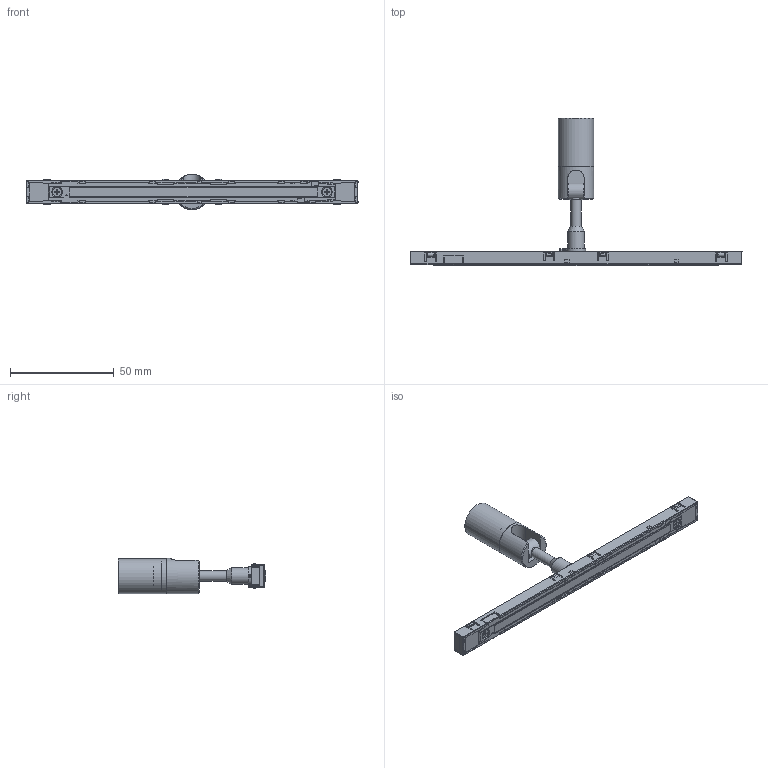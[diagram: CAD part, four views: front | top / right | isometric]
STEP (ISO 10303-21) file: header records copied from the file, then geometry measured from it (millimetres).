
FILE_DESCRIPTION(/* description */ (''),/* implementation_level */ '2;1');
FILE_NAME(/* name */ 'COLIBRI 18.stp',/* time_stamp */ '2023-11-15T16:03:28+01:00',/* author */ ('n.bisotti'),/* organization */ (''),/* preprocessor_version */ 'ST-DEVELOPER v19.2',/* originating_system */ 'Autodesk Inventor 2023',/* authorisation */ '');
FILE_SCHEMA (('AUTOMOTIVE_DESIGN { 1 0 10303 214 3 1 1 }'));
Length unit declared in the file: centimetre
Products named in the file (1): Parte3
Bounding box: 160.11 x 70.94 x 17 mm (x, y, z)
Volume: 18183.2 mm3; surface area: 13384.6 mm2
Topology: 12 solids, 12 shells, 982 faces, 2680 edges, 1751 vertices
Faces by surface type: plane 673, cylinder 200, cone 69, bspline 30, sphere 8, torus 2
Full cylindrical faces by diameter (mm): 2 x2, 2.7 x1, 3.3 x1, 4.2 x1, 4.3 x2, 5 x5, 5.15 x1, 6.8 x1, 7 x1, 8 x2, 9 x1, 14.7 x1, 15 x1, 16 x1, 16.2 x1, 17 x2
Entity records: 33510 total; most frequent: CARTESIAN_POINT 7642, ORIENTED_EDGE 5340, DIRECTION 5030, EDGE_CURVE 2670, LINE 1900, VECTOR 1900, VERTEX_POINT 1753, AXIS2_PLACEMENT_3D 1565
